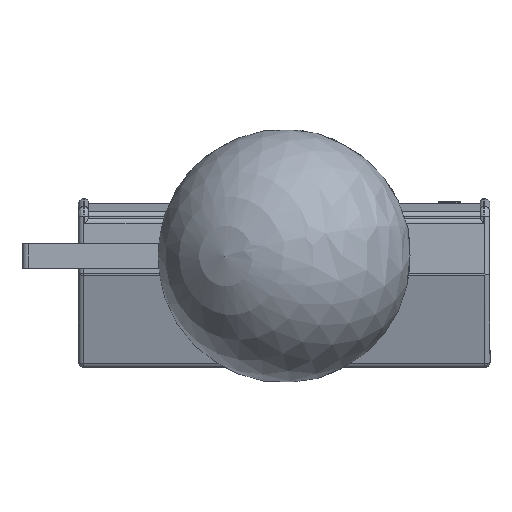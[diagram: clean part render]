
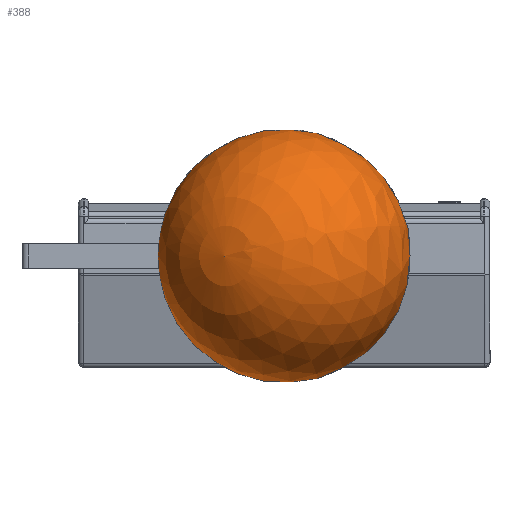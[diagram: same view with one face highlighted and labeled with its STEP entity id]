
A CAD part, left-side view. The second image highlights one B-rep face of the part: STEP entity #388.
In plain terms, the highlighted spherical face has radius 157.25 mm.
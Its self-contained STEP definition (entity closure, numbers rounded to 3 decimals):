
#313 = ORIENTED_EDGE ( 'NONE', *, *, #385, .T. ) ;
#314 = ORIENTED_EDGE ( 'NONE', *, *, #18161, .T. ) ;
#385 = EDGE_CURVE ( 'NONE', #18160, #18162, #6689, .T. ) ;
#388 = ADVANCED_FACE ( 'NONE', ( #6690 ), #6684, .T. ) ;
#389 = EDGE_LOOP ( 'NONE', ( #313, #314 ) ) ;
#6679 = DIRECTION ( 'NONE',  ( 0.321, 0.735, 0.597 ) ) ;
#6680 = DIRECTION ( 'NONE',  ( 0.881, 0., -0.474 ) ) ;
#6682 = CARTESIAN_POINT ( 'NONE',  ( -155.25, 72., 243. ) ) ;
#6683 = AXIS2_PLACEMENT_3D ( 'NONE', #6682, #6680, #6679 ) ;
#6684 = SPHERICAL_SURFACE ( 'NONE', #6683, 157.25 ) ;
#6685 = DIRECTION ( 'NONE',  ( 0., -1., 0. ) ) ;
#6686 = DIRECTION ( 'NONE',  ( -1., 0., 0. ) ) ;
#6687 = CARTESIAN_POINT ( 'NONE',  ( 0., 72., 243. ) ) ;
#6688 = AXIS2_PLACEMENT_3D ( 'NONE', #6687, #6686, #6685 ) ;
#6689 = CIRCLE ( 'NONE', #6688, 25. ) ;
#6690 = FACE_OUTER_BOUND ( 'NONE', #389, .T. ) ;
#17197 = CARTESIAN_POINT ( 'NONE',  ( 0., 97., 243. ) ) ;
#17198 = DIRECTION ( 'NONE',  ( 0., -1., 0. ) ) ;
#17199 = DIRECTION ( 'NONE',  ( -1., 0., 0. ) ) ;
#17200 = CARTESIAN_POINT ( 'NONE',  ( 0., 72., 243. ) ) ;
#17201 = AXIS2_PLACEMENT_3D ( 'NONE', #17200, #17199, #17198 ) ;
#17202 = CIRCLE ( 'NONE', #17201, 25. ) ;
#17203 = CARTESIAN_POINT ( 'NONE',  ( 0., 47., 243. ) ) ;
#18160 = VERTEX_POINT ( 'NONE', #17203 ) ;
#18161 = EDGE_CURVE ( 'NONE', #18162, #18160, #17202, .T. ) ;
#18162 = VERTEX_POINT ( 'NONE', #17197 ) ;
